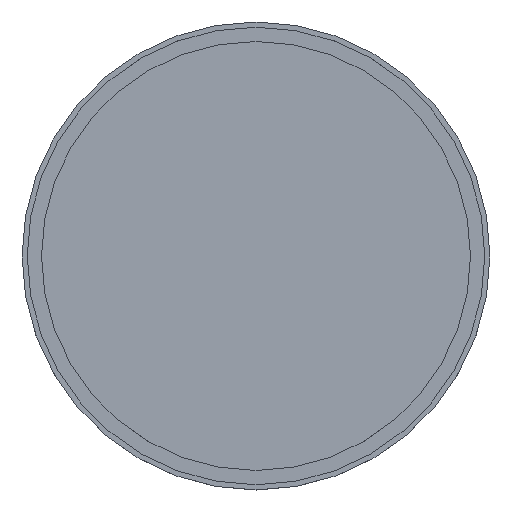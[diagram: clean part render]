
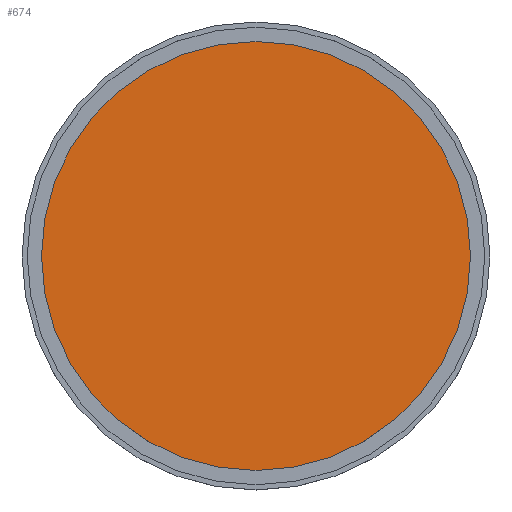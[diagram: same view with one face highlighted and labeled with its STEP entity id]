
A CAD part, top view. The second image highlights one B-rep face of the part: STEP entity #674.
In plain terms, the highlighted planar face has unit normal (0, 0, 1).
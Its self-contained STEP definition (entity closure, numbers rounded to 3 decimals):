
#272=CARTESIAN_POINT('',(-82.5,0.,12.0));
#273=VERTEX_POINT('',#272);
#282=CARTESIAN_POINT('',(82.5,0.,12.));
#283=VERTEX_POINT('',#282);
#284=CARTESIAN_POINT('',(0.0,0.0,12.));
#285=DIRECTION('',(0.0,0.0,1.0));
#286=DIRECTION('',(-1.0,0.0,0.0));
#287=AXIS2_PLACEMENT_3D('',#284,#285,#286);
#288=CIRCLE('',#287,82.5);
#289=EDGE_CURVE('',#283,#273,#288,.T.);
#585=CARTESIAN_POINT('',(0.0,0.0,12.));
#586=DIRECTION('',(0.0,0.0,1.0));
#587=DIRECTION('',(-1.0,0.0,0.0));
#588=AXIS2_PLACEMENT_3D('',#585,#586,#587);
#589=CIRCLE('',#588,82.5);
#590=EDGE_CURVE('',#273,#283,#589,.T.);
#665=CARTESIAN_POINT('',(8.182,0.,12.));
#666=DIRECTION('',(0.0,0.0,1.0));
#667=DIRECTION('',(1.0,0.0,0.0));
#668=AXIS2_PLACEMENT_3D('',#665,#666,#667);
#669=PLANE('',#668);
#670=ORIENTED_EDGE('',*,*,#289,.T.);
#671=ORIENTED_EDGE('',*,*,#590,.T.);
#672=EDGE_LOOP('',(#670,#671));
#673=FACE_OUTER_BOUND('',#672,.T.);
#674=ADVANCED_FACE('',(#673),#669,.T.);
